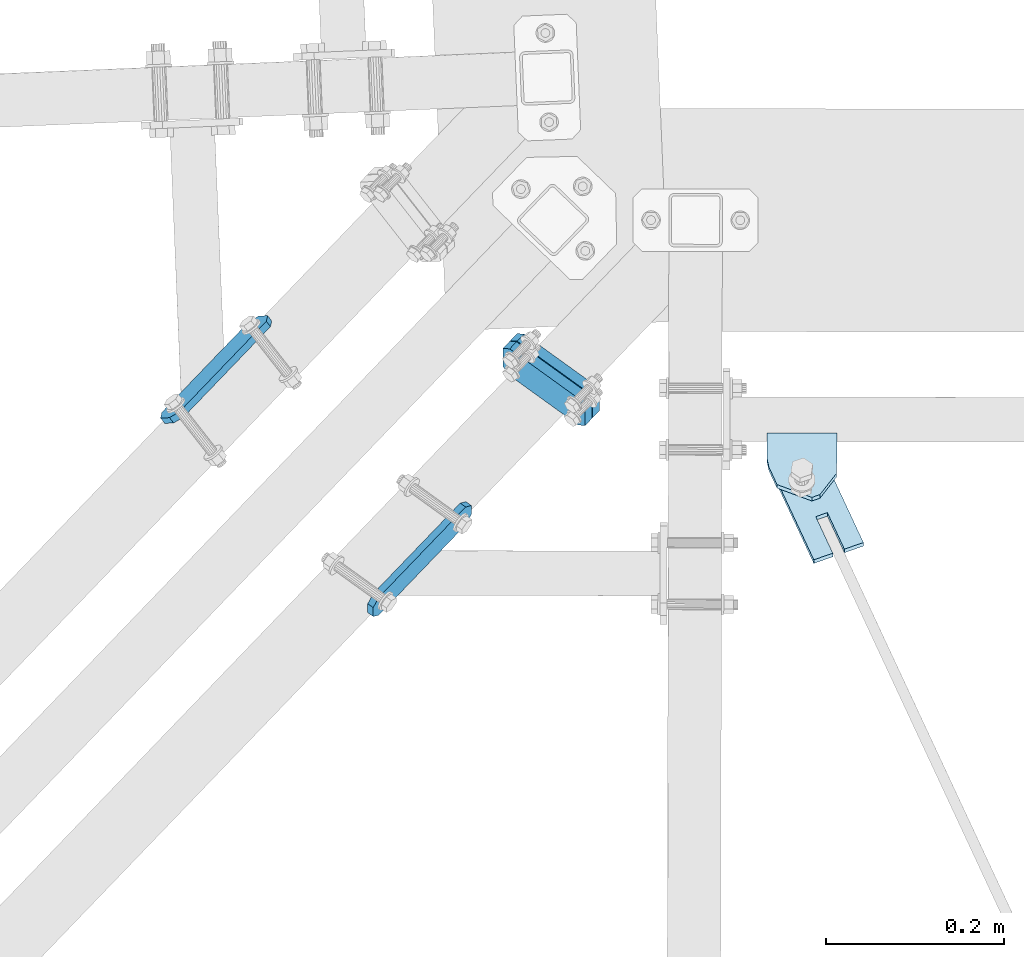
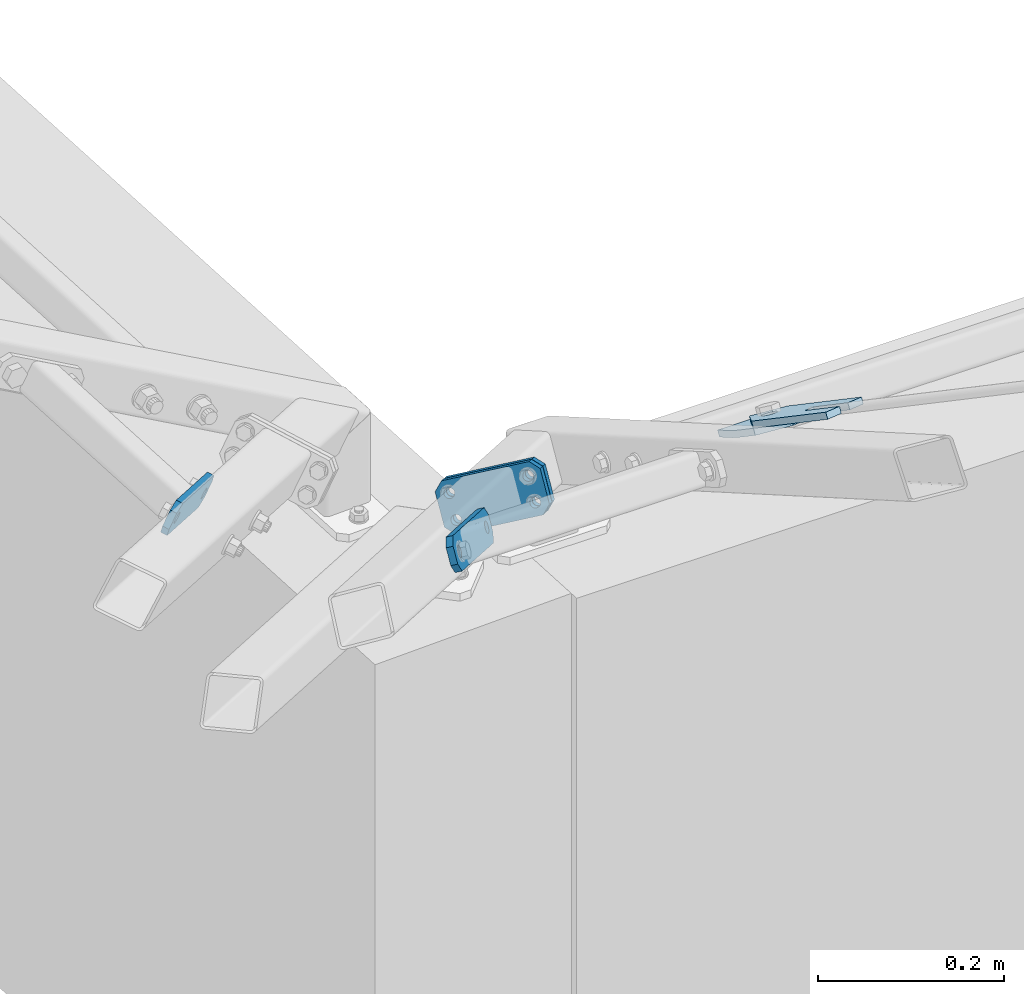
# One storey, part 29 of 288: 6 plates, 36 openings.
"""IFC2X3 building model written with IfcOpenShell, lengths in millimetres."""

from ifc_helpers import new_model, entity, si_unit, converted_unit, point, frame, frame_2d, origin, origin_with_axes, origin_2d_with_axis, place, context, project, spatial, polyline, circle_curve, line_curve, trimmed, segment, composite_curve, circle, outline, extrude, material, layer, layer_set, element, save


model = new_model("IFC2X3")

# Units and contexts
model_context = context("Model", 3, precision=1e-09, world=origin_with_axes())
ifc_project = project(units=[si_unit("LENGTHUNIT", "METRE", prefix="MILLI"), si_unit("AREAUNIT", "SQUARE_METRE"), si_unit("VOLUMEUNIT", "CUBIC_METRE"), converted_unit("PLANEANGLEUNIT", "DEGREE", entity("IfcPlaneAngleMeasure", 0.01745329), si_unit("PLANEANGLEUNIT", "RADIAN"), dimensions=[0, 0, 0, 0, 0, 0, 0])], contexts=[model_context])

# Site, building, storey
site_placement = place(None, origin_with_axes())
site = spatial("IfcSite", under=ifc_project, at=site_placement, Name="Remont ?wietlik?w nad MC w NCPP w Opolu", CompositionType="ELEMENT")
building_placement = place(site_placement, origin_with_axes())
building = spatial("IfcBuilding", under=site, at=building_placement, Name="Konstrukcja 1", CompositionType="ELEMENT")
storey_placement = place(building_placement, origin_with_axes())
storey = spatial("IfcBuildingStorey", under=building, at=storey_placement, Name="Default Storey", CompositionType="ELEMENT", Elevation=0.0)

# Plate, openings
ifc_material = material(Name="S235")
ifc_layer_1 = layer(ifc_material, 8.0)
ifc_layer_set_1 = layer_set([ifc_layer_1], Name="S235")
plate_1_placement = place(None, frame((1600.07287425, 1435.554153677, 343.827254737), z_axis=(0.768549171, -0.554075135, 0.319895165), x_axis=(0.639790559, 0.665222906, -0.384898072)))
plate_1 = element("IfcPlate", 1, at=plate_1_placement, inside=storey, material=ifc_layer_set_1, Name="-", ObjectType="-", context=model_context, shape_type="SweptSolid", body=[
    extrude(outline(polyline([(0.0, 0.0), (171.961487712, 0.0), (171.961487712, 40.000015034), (0.0, 40.000015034), (0.0, 0.0)])), origin_with_axes(), (0.0, 0.0, 1.0), 8.0),
])
opening_1_placement = place(plate_1_placement, frame((0.0, 0.0, -0.01), z_axis=(0.0, 0.0, 1.0), x_axis=(1.0, 0.0, 0.0)))
element("IfcOpeningElement", 2, at=opening_1_placement, cuts=plate_1, ObjectType="Opening", context=model_context, shape_type="SweptSolid", body=[
    extrude(outline(composite_curve([segment(trimmed(line_curve((171.961487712, 40.000015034), (-1.0, 0.0), 10.0), [point((171.961487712, 40.000015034))], [point((161.961487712, 40.000015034))], True, "CARTESIAN"), True, "CONTINUOUS"), segment(trimmed(circle_curve(frame_2d((161.961487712, 30.000015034), x_axis=(-1.0, 0.0)), 10.0), [point((161.961487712, 40.000015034))], [point((171.961487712, 30.000015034))], False, "CARTESIAN"), True, "CONTINUOUS"), segment(trimmed(line_curve((171.961487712, 30.000015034), (0.0, 1.0), 10.0), [point((171.961487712, 30.000015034))], [point((171.961487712, 40.000015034))], True, "CARTESIAN"), True, "CONTINUOUS")], self_intersect=False)), origin(), (0.0, 0.0, 1.0), 8.02),
])
opening_2_placement = place(plate_1_placement, frame((0.0, 0.0, -0.01), z_axis=(0.0, 0.0, 1.0), x_axis=(1.0, 0.0, 0.0)))
element("IfcOpeningElement", 3, at=opening_2_placement, cuts=plate_1, ObjectType="Opening", context=model_context, shape_type="SweptSolid", body=[
    extrude(outline(composite_curve([segment(trimmed(line_curve((171.961487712, 0.0), (0.0, 1.0), 10.0), [point((171.961487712, 0.0))], [point((171.961487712, 10.0))], True, "CARTESIAN"), True, "CONTINUOUS"), segment(trimmed(circle_curve(frame_2d((161.961487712, 10.0), x_axis=(-1.0, 0.0)), 10.0), [point((171.961487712, 10.0))], [point((161.961487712, 0.0))], False, "CARTESIAN"), True, "CONTINUOUS"), segment(trimmed(line_curve((161.961487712, 0.0), (1.0, 0.0), 10.0), [point((161.961487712, 0.0))], [point((171.961487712, 0.0))], True, "CARTESIAN"), True, "CONTINUOUS")], self_intersect=False)), origin(), (0.0, 0.0, 1.0), 8.02),
])
opening_3_placement = place(plate_1_placement, frame((0.0, 0.0, -0.01), z_axis=(0.0, 0.0, 1.0), x_axis=(1.0, 0.0, 0.0)))
element("IfcOpeningElement", 4, at=opening_3_placement, cuts=plate_1, ObjectType="Opening", context=model_context, shape_type="SweptSolid", body=[
    extrude(outline(composite_curve([segment(trimmed(line_curve((0.0, 0.0), (1.0, 0.0), 10.0), [point((0.0, 0.0))], [point((10.0, 0.0))], True, "CARTESIAN"), True, "CONTINUOUS"), segment(trimmed(circle_curve(frame_2d((10.0, 10.0), x_axis=(-1.0, 0.0)), 10.0), [point((10.0, 0.0))], [point((0.0, 10.0))], False, "CARTESIAN"), True, "CONTINUOUS"), segment(trimmed(line_curve((0.0, 10.0), (0.0, -1.0), 10.0), [point((0.0, 10.0))], [point((0.0, 0.0))], True, "CARTESIAN"), True, "CONTINUOUS")], self_intersect=False)), origin(), (0.0, 0.0, 1.0), 8.02),
])
opening_4_placement = place(plate_1_placement, frame((0.0, 0.0, -0.01), z_axis=(0.0, 0.0, 1.0), x_axis=(1.0, 0.0, 0.0)))
element("IfcOpeningElement", 5, at=opening_4_placement, cuts=plate_1, ObjectType="Opening", context=model_context, shape_type="SweptSolid", body=[
    extrude(outline(composite_curve([segment(trimmed(line_curve((0.0, 40.000015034), (0.0, -1.0), 10.0), [point((0.0, 40.000015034))], [point((0.0, 30.000015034))], True, "CARTESIAN"), True, "CONTINUOUS"), segment(trimmed(circle_curve(frame_2d((10.0, 30.000015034), x_axis=(-1.0, 0.0)), 10.0), [point((0.0, 30.000015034))], [point((10.0, 40.000015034))], False, "CARTESIAN"), True, "CONTINUOUS"), segment(trimmed(line_curve((10.0, 40.000015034), (-1.0, 0.0), 10.0), [point((10.0, 40.000015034))], [point((0.0, 40.000015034))], True, "CARTESIAN"), True, "CONTINUOUS")], self_intersect=False)), origin(), (0.0, 0.0, 1.0), 8.02),
])
opening_5_placement = place(plate_1_placement, frame((151.968676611, 20.000007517, -0.5), z_axis=(0.0, 0.0, 1.0), x_axis=(1.0, 0.0, 0.0)))
element("IfcOpeningElement", 6, at=opening_5_placement, cuts=plate_1, ObjectType="Opening", context=model_context, shape_type="SweptSolid", body=[
    extrude(circle(Radius=7.001, at=origin_2d_with_axis()), origin(), (0.0, 0.0, 1.0), 9.0),
])
opening_6_placement = place(plate_1_placement, frame((20.007188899, 20.000007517, -0.5), z_axis=(0.0, 0.0, 1.0), x_axis=(1.0, 0.0, 0.0)))
element("IfcOpeningElement", 7, at=opening_6_placement, cuts=plate_1, ObjectType="Opening", context=model_context, shape_type="SweptSolid", body=[
    extrude(circle(Radius=7.001, at=origin_2d_with_axis()), origin(), (0.0, 0.0, 1.0), 9.0),
])

plate_2_placement = place(None, frame((1467.292674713, 1747.030765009, 328.829036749), z_axis=(0.584245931, -0.746219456, -0.319081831), x_axis=(-0.639601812, -0.665374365, 0.384949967)))
plate_2 = element("IfcPlate", 8, at=plate_2_placement, inside=storey, material=ifc_layer_set_1, Name="-", ObjectType="-", context=model_context, shape_type="SweptSolid", body=[
    extrude(outline(polyline([(-39.999999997, 0.0), (131.953987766, 0.0), (131.953987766, 40.000140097), (-39.999999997, 40.000140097), (-39.999999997, 0.0)])), origin_with_axes(), (0.0, 0.0, 1.0), 8.0),
])
opening_7_placement = place(plate_2_placement, frame((0.0, 0.0, -0.01), z_axis=(0.0, 0.0, 1.0), x_axis=(1.0, 0.0, 0.0)))
element("IfcOpeningElement", 9, at=opening_7_placement, cuts=plate_2, ObjectType="Opening", context=model_context, shape_type="SweptSolid", body=[
    extrude(outline(composite_curve([segment(trimmed(line_curve((-39.999999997, 0.0), (1.0, 0.0), 10.0), [point((-39.999999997, 0.0))], [point((-29.999999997, 0.0))], True, "CARTESIAN"), True, "CONTINUOUS"), segment(trimmed(circle_curve(frame_2d((-29.999999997, 10.0), x_axis=(-1.0, 0.0)), 10.0), [point((-29.999999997, 0.0))], [point((-39.999999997, 10.0))], False, "CARTESIAN"), True, "CONTINUOUS"), segment(trimmed(line_curve((-39.999999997, 10.0), (0.0, -1.0), 10.0), [point((-39.999999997, 10.0))], [point((-39.999999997, 0.0))], True, "CARTESIAN"), True, "CONTINUOUS")], self_intersect=False)), origin(), (0.0, 0.0, 1.0), 8.02),
])
opening_8_placement = place(plate_2_placement, frame((-19.999798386, 20.000035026, 8.5), z_axis=(0.0, 0.0, -1.0), x_axis=(1.0, 0.0, 0.0)))
element("IfcOpeningElement", 10, at=opening_8_placement, cuts=plate_2, ObjectType="Opening", context=model_context, shape_type="SweptSolid", body=[
    extrude(circle(Radius=7.001, at=origin_2d_with_axis()), origin(), (0.0, 0.0, 1.0), 9.0),
])
opening_9_placement = place(plate_2_placement, frame((111.953987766, 20.000140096, 8.5), z_axis=(0.0, 0.0, -1.0), x_axis=(1.0, 0.0, 0.0)))
element("IfcOpeningElement", 11, at=opening_9_placement, cuts=plate_2, ObjectType="Opening", context=model_context, shape_type="SweptSolid", body=[
    extrude(circle(Radius=7.001, at=origin_2d_with_axis()), origin(), (0.0, 0.0, 1.0), 9.0),
])
opening_10_placement = place(plate_2_placement, frame((0.0, 0.0, -0.01), z_axis=(0.0, 0.0, 1.0), x_axis=(1.0, 0.0, 0.0)))
element("IfcOpeningElement", 12, at=opening_10_placement, cuts=plate_2, ObjectType="Opening", context=model_context, shape_type="SweptSolid", body=[
    extrude(outline(composite_curve([segment(trimmed(line_curve((-39.999999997, 40.000140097), (0.0, -1.0), 10.0), [point((-39.999999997, 40.000140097))], [point((-39.999999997, 30.000140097))], True, "CARTESIAN"), True, "CONTINUOUS"), segment(trimmed(circle_curve(frame_2d((-29.999999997, 30.000140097), x_axis=(-1.0, 0.0)), 10.0), [point((-39.999999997, 30.000140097))], [point((-29.999999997, 40.000140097))], False, "CARTESIAN"), True, "CONTINUOUS"), segment(trimmed(line_curve((-29.999999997, 40.000140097), (-1.0, 0.0), 10.0), [point((-29.999999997, 40.000140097))], [point((-39.999999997, 40.000140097))], True, "CARTESIAN"), True, "CONTINUOUS")], self_intersect=False)), origin(), (0.0, 0.0, 1.0), 8.02),
])
opening_11_placement = place(plate_2_placement, frame((0.0, 0.0, -0.01), z_axis=(0.0, 0.0, 1.0), x_axis=(1.0, 0.0, 0.0)))
element("IfcOpeningElement", 13, at=opening_11_placement, cuts=plate_2, ObjectType="Opening", context=model_context, shape_type="SweptSolid", body=[
    extrude(outline(composite_curve([segment(trimmed(line_curve((131.953987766, 40.000140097), (-1.0, 0.0), 10.0), [point((131.953987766, 40.000140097))], [point((121.953987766, 40.000140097))], True, "CARTESIAN"), True, "CONTINUOUS"), segment(trimmed(circle_curve(frame_2d((121.953987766, 30.000140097), x_axis=(-1.0, 0.0)), 10.0), [point((121.953987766, 40.000140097))], [point((131.953987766, 30.000140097))], False, "CARTESIAN"), True, "CONTINUOUS"), segment(trimmed(line_curve((131.953987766, 30.000140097), (0.0, 1.0), 10.0), [point((131.953987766, 30.000140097))], [point((131.953987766, 40.000140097))], True, "CARTESIAN"), True, "CONTINUOUS")], self_intersect=False)), origin(), (0.0, 0.0, 1.0), 8.02),
])
opening_12_placement = place(plate_2_placement, frame((0.0, 0.0, -0.01), z_axis=(0.0, 0.0, 1.0), x_axis=(1.0, 0.0, 0.0)))
element("IfcOpeningElement", 14, at=opening_12_placement, cuts=plate_2, ObjectType="Opening", context=model_context, shape_type="SweptSolid", body=[
    extrude(outline(composite_curve([segment(trimmed(line_curve((131.953987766, 0.0), (0.0, 1.0), 10.0), [point((131.953987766, 0.0))], [point((131.953987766, 10.0))], True, "CARTESIAN"), True, "CONTINUOUS"), segment(trimmed(circle_curve(frame_2d((121.953987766, 10.0), x_axis=(-1.0, 0.0)), 10.0), [point((131.953987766, 10.0))], [point((121.953987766, 0.0))], False, "CARTESIAN"), True, "CONTINUOUS"), segment(trimmed(line_curve((121.953987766, 0.0), (1.0, 0.0), 10.0), [point((121.953987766, 0.0))], [point((131.953987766, 0.0))], True, "CARTESIAN"), True, "CONTINUOUS")], self_intersect=False)), origin(), (0.0, 0.0, 1.0), 8.02),
])

plate_3_placement = place(None, frame((2100.062299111, 1495.688605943, 336.183359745), z_axis=(0.001127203, 0.499998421, 0.866025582), x_axis=(0.927238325, 0.323778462, -0.18813983)))
plate_3 = element("IfcPlate", 15, at=plate_3_placement, inside=storey, material=ifc_layer_set_1, Name="Tab_Plate#2", ObjectType="Tab_Plate#2", context=model_context, shape_type="SweptSolid", body=[
    extrude(outline(polyline([(0.0, 0.0), (60.0, 0.0), (60.0, 140.0), (0.0, 140.0), (0.0, 0.0)])), origin_with_axes(), (0.0, 0.0, 1.0), 8.0),
])
opening_13_placement = place(plate_3_placement, frame((0.0, 0.0, -0.01), z_axis=(0.0, 0.0, 1.0), x_axis=(1.0, 0.0, 0.0)))
element("IfcOpeningElement", 16, at=opening_13_placement, cuts=plate_3, ObjectType="Opening", context=model_context, shape_type="SweptSolid", body=[
    extrude(outline(composite_curve([segment(trimmed(line_curve((60.0, 140.0), (-1.0, 0.0), 30.0), [point((60.0, 140.0))], [point((30.0, 140.0))], True, "CARTESIAN"), True, "CONTINUOUS"), segment(trimmed(circle_curve(frame_2d((30.0, 110.0), x_axis=(-1.0, 0.0)), 30.0), [point((30.0, 140.0))], [point((60.0, 110.0))], False, "CARTESIAN"), True, "CONTINUOUS"), segment(trimmed(line_curve((60.0, 110.0), (0.0, 1.0), 30.0), [point((60.0, 110.0))], [point((60.0, 140.0))], True, "CARTESIAN"), True, "CONTINUOUS")], self_intersect=False)), origin(), (0.0, 0.0, 1.0), 8.02),
])
opening_14_placement = place(plate_3_placement, frame((0.0, 0.0, -0.01), z_axis=(0.0, 0.0, 1.0), x_axis=(1.0, 0.0, 0.0)))
element("IfcOpeningElement", 17, at=opening_14_placement, cuts=plate_3, ObjectType="Opening", context=model_context, shape_type="SweptSolid", body=[
    extrude(outline(composite_curve([segment(trimmed(line_curve((0.0, 140.0), (0.0, -1.0), 30.0), [point((0.0, 140.0))], [point((0.0, 110.0))], True, "CARTESIAN"), True, "CONTINUOUS"), segment(trimmed(circle_curve(frame_2d((30.0, 110.0), x_axis=(-1.0, 0.0)), 30.0), [point((0.0, 110.0))], [point((30.0, 140.0))], False, "CARTESIAN"), True, "CONTINUOUS"), segment(trimmed(line_curve((30.0, 140.0), (-1.0, 0.0), 30.0), [point((30.0, 140.0))], [point((0.0, 140.0))], True, "CARTESIAN"), True, "CONTINUOUS")], self_intersect=False)), origin(), (0.0, 0.0, 1.0), 8.02),
])
opening_15_placement = place(plate_3_placement, frame((0.0, 0.0, 8.1), z_axis=(0.0, 0.0, -1.0), x_axis=(0.92650604, -0.376279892, 0.0)))
element("IfcOpeningElement", 18, at=opening_15_placement, cuts=plate_3, ObjectType="Opening", context=model_context, shape_type="SweptSolid", body=[
    extrude(outline(polyline([(2.118061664, -55.906795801), (15.090999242, -61.175466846), (34.282026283, -13.92180577), (21.309088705, -8.653134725), (2.118061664, -55.906795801)])), origin(), (0.0, 0.0, 1.0), 8.2),
])
opening_16_placement = place(plate_3_placement, frame((30.0, 119.001, -0.5), z_axis=(0.0, 0.0, -1.0), x_axis=(-1.0, 0.0, 0.0)))
element("IfcOpeningElement", 19, at=opening_16_placement, cuts=plate_3, ObjectType="Opening", context=model_context, shape_type="SweptSolid", body=[
    extrude(circle(Radius=9.001, at=frame_2d((0.0, -9.001), x_axis=(1.0, 0.0))), origin(), (0.0, 0.0, -1.0), 9.0),
])

plate_4_placement = place(None, frame((2125.738994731, 1579.373248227, 287.834751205), z_axis=(-0.001127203, -0.499998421, -0.866025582), x_axis=(-0.927238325, -0.323778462, 0.18813983)))
plate_4 = element("IfcPlate", 20, at=plate_4_placement, inside=storey, material=ifc_layer_set_1, Name="Gusset#2", ObjectType="Gusset#2", context=model_context, shape_type="SweptSolid", body=[
    extrude(outline(polyline([(0.0, 0.0), (60.0, 0.0), (60.0, 60.0), (45.293350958, 96.211175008), (-27.128999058, 66.797876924), (0.0, 0.0)])), origin_with_axes(), (0.0, 0.0, 1.0), 8.0),
])
opening_17_placement = place(plate_4_placement, frame((30.0, 39.001, 8.5), z_axis=(0.0, 0.0, 1.0), x_axis=(1.0, 0.0, 0.0)))
element("IfcOpeningElement", 21, at=opening_17_placement, cuts=plate_4, ObjectType="Opening", context=model_context, shape_type="SweptSolid", body=[
    extrude(circle(Radius=9.001, at=frame_2d((0.0, -9.001), x_axis=(1.0, 0.0))), origin(), (0.0, 0.0, -1.0), 9.0),
])
opening_18_placement = place(plate_4_placement, frame((0.0, 0.0, -0.01), z_axis=(0.0, 0.0, 1.0), x_axis=(1.0, 0.0, 0.0)))
element("IfcOpeningElement", 22, at=opening_18_placement, cuts=plate_4, ObjectType="Opening", context=model_context, shape_type="SweptSolid", body=[
    extrude(outline(composite_curve([segment(trimmed(line_curve((60.0, 0.0), (0.0, 1.0), 30.0), [point((60.0, 0.0))], [point((60.0, 30.0))], True, "CARTESIAN"), True, "CONTINUOUS"), segment(trimmed(circle_curve(frame_2d((30.0, 30.0), x_axis=(-1.0, 0.0)), 30.0), [point((60.0, 30.0))], [point((30.0, 0.0))], False, "CARTESIAN"), True, "CONTINUOUS"), segment(trimmed(line_curve((30.0, 0.0), (1.0, 0.0), 30.0), [point((30.0, 0.0))], [point((60.0, 0.0))], True, "CARTESIAN"), True, "CONTINUOUS")], self_intersect=False)), origin(), (0.0, 0.0, 1.0), 8.02),
])
opening_19_placement = place(plate_4_placement, frame((0.0, 0.0, -0.01), z_axis=(0.0, 0.0, 1.0), x_axis=(1.0, 0.0, 0.0)))
element("IfcOpeningElement", 23, at=opening_19_placement, cuts=plate_4, ObjectType="Opening", context=model_context, shape_type="SweptSolid", body=[
    extrude(outline(composite_curve([segment(trimmed(line_curve((0.0, 0.0), (1.0, 0.0), 20.195732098), [point((0.0, 0.0))], [point((20.195732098, 0.0))], True, "CARTESIAN"), True, "CONTINUOUS"), segment(trimmed(circle_curve(frame_2d((20.195732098, 30.0), x_axis=(-1.0, 0.0)), 30.0), [point((20.195732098, 0.0))], [point((-7.599373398, 18.711416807))], False, "CARTESIAN"), True, "CONTINUOUS"), segment(trimmed(line_curve((-7.599373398, 18.711416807), (0.376286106, -0.926503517), 20.195732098), [point((-7.599373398, 18.711416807))], [point((0.0, 0.0))], True, "CARTESIAN"), True, "CONTINUOUS")], self_intersect=False)), origin(), (0.0, 0.0, 1.0), 8.02),
])
opening_20_placement = place(plate_4_placement, frame((0.0, 0.0, -0.01), z_axis=(0.0, 0.0, 1.0), x_axis=(1.0, 0.0, 0.0)))
element("IfcOpeningElement", 24, at=opening_20_placement, cuts=plate_4, ObjectType="Opening", context=model_context, shape_type="SweptSolid", body=[
    extrude(outline(composite_curve([segment(trimmed(line_curve((60.0, 60.0), (-0.376286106, 0.926503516), 5.859622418), [point((60.0, 60.0))], [point((57.795105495, 65.428960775))], True, "CARTESIAN"), True, "CONTINUOUS"), segment(trimmed(circle_curve(frame_2d((30.0, 54.140377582), x_axis=(-1.0, 0.0)), 30.0), [point((57.795105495, 65.428960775))], [point((60.0, 54.140377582))], False, "CARTESIAN"), True, "CONTINUOUS"), segment(trimmed(line_curve((60.0, 54.140377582), (0.0, 1.0), 5.859622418), [point((60.0, 54.140377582))], [point((60.0, 60.0))], True, "CARTESIAN"), True, "CONTINUOUS")], self_intersect=False)), origin(), (0.0, 0.0, 1.0), 8.02),
])

ifc_layer_2 = layer(ifc_material, 12.0)
ifc_layer_set_2 = layer_set([ifc_layer_2], Name="S235")
plate_5_placement = place(None, frame((1852.095101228, 1683.869963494, 259.090563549), z_axis=(0.639790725, 0.665583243, -0.384274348), x_axis=(0.0, -0.499999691, -0.866025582)))
plate_5 = element("IfcPlate", 25, at=plate_5_placement, inside=storey, material=ifc_layer_set_2, Name="Endplate#1", ObjectType="Endplate#1", context=model_context, shape_type="SweptSolid", body=[
    extrude(outline(polyline([(0.0, 0.0), (60.0, 0.0), (60.0, 120.0), (0.0, 120.0), (0.0, 0.0)])), origin_with_axes(), (0.0, 0.0, 1.0), 12.0),
])
opening_21_placement = place(plate_5_placement, frame((0.0, 0.0, -0.01), z_axis=(0.0, 0.0, 1.0), x_axis=(1.0, 0.0, 0.0)))
element("IfcOpeningElement", 26, at=opening_21_placement, cuts=plate_5, ObjectType="Opening", context=model_context, shape_type="SweptSolid", body=[
    extrude(outline(composite_curve([segment(trimmed(line_curve((0.0, 0.0), (1.0, 0.0), 10.0), [point((0.0, 0.0))], [point((10.0, 0.0))], True, "CARTESIAN"), True, "CONTINUOUS"), segment(trimmed(circle_curve(frame_2d((10.0, 10.0), x_axis=(-1.0, 0.0)), 10.0), [point((10.0, 0.0))], [point((0.0, 10.0))], False, "CARTESIAN"), True, "CONTINUOUS"), segment(trimmed(line_curve((0.0, 10.0), (0.0, -1.0), 10.0), [point((0.0, 10.0))], [point((0.0, 0.0))], True, "CARTESIAN"), True, "CONTINUOUS")], self_intersect=False)), origin(), (0.0, 0.0, 1.0), 12.02),
])
opening_22_placement = place(plate_5_placement, frame((0.0, 0.0, -0.01), z_axis=(0.0, 0.0, 1.0), x_axis=(1.0, 0.0, 0.0)))
element("IfcOpeningElement", 27, at=opening_22_placement, cuts=plate_5, ObjectType="Opening", context=model_context, shape_type="SweptSolid", body=[
    extrude(outline(composite_curve([segment(trimmed(line_curve((60.0, 0.0), (0.0, 1.0), 10.0), [point((60.0, 0.0))], [point((60.0, 10.0))], True, "CARTESIAN"), True, "CONTINUOUS"), segment(trimmed(circle_curve(frame_2d((50.0, 10.0), x_axis=(-1.0, 0.0)), 10.0), [point((60.0, 10.0))], [point((50.0, 0.0))], False, "CARTESIAN"), True, "CONTINUOUS"), segment(trimmed(line_curve((50.0, 0.0), (1.0, 0.0), 10.0), [point((50.0, 0.0))], [point((60.0, 0.0))], True, "CARTESIAN"), True, "CONTINUOUS")], self_intersect=False)), origin(), (0.0, 0.0, 1.0), 12.02),
])
opening_23_placement = place(plate_5_placement, frame((0.0, 0.0, -0.01), z_axis=(0.0, 0.0, 1.0), x_axis=(1.0, 0.0, 0.0)))
element("IfcOpeningElement", 28, at=opening_23_placement, cuts=plate_5, ObjectType="Opening", context=model_context, shape_type="SweptSolid", body=[
    extrude(outline(composite_curve([segment(trimmed(line_curve((60.0, 120.0), (-1.0, 0.0), 10.0), [point((60.0, 120.0))], [point((50.0, 120.0))], True, "CARTESIAN"), True, "CONTINUOUS"), segment(trimmed(circle_curve(frame_2d((50.0, 110.0), x_axis=(-1.0, 0.0)), 10.0), [point((50.0, 120.0))], [point((60.0, 110.0))], False, "CARTESIAN"), True, "CONTINUOUS"), segment(trimmed(line_curve((60.0, 110.0), (0.0, 1.0), 10.0), [point((60.0, 110.0))], [point((60.0, 120.0))], True, "CARTESIAN"), True, "CONTINUOUS")], self_intersect=False)), origin(), (0.0, 0.0, 1.0), 12.02),
])
opening_24_placement = place(plate_5_placement, frame((0.0, 0.0, -0.01), z_axis=(0.0, 0.0, 1.0), x_axis=(1.0, 0.0, 0.0)))
element("IfcOpeningElement", 29, at=opening_24_placement, cuts=plate_5, ObjectType="Opening", context=model_context, shape_type="SweptSolid", body=[
    extrude(outline(composite_curve([segment(trimmed(line_curve((0.0, 120.0), (0.0, -1.0), 10.0), [point((0.0, 120.0))], [point((0.0, 110.0))], True, "CARTESIAN"), True, "CONTINUOUS"), segment(trimmed(circle_curve(frame_2d((10.0, 110.0), x_axis=(-1.0, 0.0)), 10.0), [point((0.0, 110.0))], [point((10.0, 120.0))], False, "CARTESIAN"), True, "CONTINUOUS"), segment(trimmed(line_curve((10.0, 120.0), (-1.0, 0.0), 10.0), [point((10.0, 120.0))], [point((0.0, 120.0))], True, "CARTESIAN"), True, "CONTINUOUS")], self_intersect=False)), origin(), (0.0, 0.0, 1.0), 12.02),
])
opening_25_placement = place(plate_5_placement, frame((15.0, 60.0, 12.5), z_axis=(0.0, 0.0, -1.0), x_axis=(1.0, 0.0, 0.0)))
element("IfcOpeningElement", 30, at=opening_25_placement, cuts=plate_5, ObjectType="Opening", context=model_context, shape_type="SweptSolid", body=[
    extrude(circle(Radius=6.001, at=frame_2d((0.0, 45.0), x_axis=(1.0, 0.0))), origin(), (0.0, 0.0, 1.0), 13.0),
])
opening_26_placement = place(plate_5_placement, frame((15.0, 60.0, 12.5), z_axis=(0.0, 0.0, -1.0), x_axis=(1.0, 0.0, 0.0)))
element("IfcOpeningElement", 31, at=opening_26_placement, cuts=plate_5, ObjectType="Opening", context=model_context, shape_type="SweptSolid", body=[
    extrude(circle(Radius=6.001, at=frame_2d((0.0, -45.0), x_axis=(1.0, 0.0))), origin(), (0.0, 0.0, 1.0), 13.0),
])
opening_27_placement = place(plate_5_placement, frame((45.0, 60.0, 12.5), z_axis=(0.0, 0.0, -1.0), x_axis=(1.0, 0.0, 0.0)))
element("IfcOpeningElement", 32, at=opening_27_placement, cuts=plate_5, ObjectType="Opening", context=model_context, shape_type="SweptSolid", body=[
    extrude(circle(Radius=6.001, at=frame_2d((0.0, 45.0), x_axis=(1.0, 0.0))), origin(), (0.0, 0.0, 1.0), 13.0),
])
opening_28_placement = place(plate_5_placement, frame((45.0, 60.0, 12.5), z_axis=(0.0, 0.0, -1.0), x_axis=(1.0, 0.0, 0.0)))
element("IfcOpeningElement", 33, at=opening_28_placement, cuts=plate_5, ObjectType="Opening", context=model_context, shape_type="SweptSolid", body=[
    extrude(circle(Radius=6.001, at=frame_2d((0.0, -45.0), x_axis=(1.0, 0.0))), origin(), (0.0, 0.0, 1.0), 13.0),
])

plate_6_placement = place(None, frame((1843.777821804, 1675.217381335, 264.086130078), z_axis=(0.639790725, 0.665583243, -0.384274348), x_axis=(0.0, -0.499999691, -0.866025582)))
plate_6 = element("IfcPlate", 34, at=plate_6_placement, inside=storey, material=ifc_layer_set_2, Name="Endplate#2", ObjectType="Endplate#2", context=model_context, shape_type="SweptSolid", body=[
    extrude(outline(polyline([(0.0, 0.0), (60.0, 0.0), (60.0, 120.0), (0.0, 120.0), (0.0, 0.0)])), origin_with_axes(), (0.0, 0.0, 1.0), 12.0),
])
opening_29_placement = place(plate_6_placement, frame((0.0, 0.0, -0.01), z_axis=(0.0, 0.0, 1.0), x_axis=(1.0, 0.0, 0.0)))
element("IfcOpeningElement", 35, at=opening_29_placement, cuts=plate_6, ObjectType="Opening", context=model_context, shape_type="SweptSolid", body=[
    extrude(outline(composite_curve([segment(trimmed(line_curve((0.0, 0.0), (1.0, 0.0), 10.0), [point((0.0, 0.0))], [point((10.0, 0.0))], True, "CARTESIAN"), True, "CONTINUOUS"), segment(trimmed(circle_curve(frame_2d((10.0, 10.0), x_axis=(-1.0, 0.0)), 10.0), [point((10.0, 0.0))], [point((0.0, 10.0))], False, "CARTESIAN"), True, "CONTINUOUS"), segment(trimmed(line_curve((0.0, 10.0), (0.0, -1.0), 10.0), [point((0.0, 10.0))], [point((0.0, 0.0))], True, "CARTESIAN"), True, "CONTINUOUS")], self_intersect=False)), origin(), (0.0, 0.0, 1.0), 12.02),
])
opening_30_placement = place(plate_6_placement, frame((0.0, 0.0, -0.01), z_axis=(0.0, 0.0, 1.0), x_axis=(1.0, 0.0, 0.0)))
element("IfcOpeningElement", 36, at=opening_30_placement, cuts=plate_6, ObjectType="Opening", context=model_context, shape_type="SweptSolid", body=[
    extrude(outline(composite_curve([segment(trimmed(line_curve((60.0, 0.0), (0.0, 1.0), 10.0), [point((60.0, 0.0))], [point((60.0, 10.0))], True, "CARTESIAN"), True, "CONTINUOUS"), segment(trimmed(circle_curve(frame_2d((50.0, 10.0), x_axis=(-1.0, 0.0)), 10.0), [point((60.0, 10.0))], [point((50.0, 0.0))], False, "CARTESIAN"), True, "CONTINUOUS"), segment(trimmed(line_curve((50.0, 0.0), (1.0, 0.0), 10.0), [point((50.0, 0.0))], [point((60.0, 0.0))], True, "CARTESIAN"), True, "CONTINUOUS")], self_intersect=False)), origin(), (0.0, 0.0, 1.0), 12.02),
])
opening_31_placement = place(plate_6_placement, frame((0.0, 0.0, -0.01), z_axis=(0.0, 0.0, 1.0), x_axis=(1.0, 0.0, 0.0)))
element("IfcOpeningElement", 37, at=opening_31_placement, cuts=plate_6, ObjectType="Opening", context=model_context, shape_type="SweptSolid", body=[
    extrude(outline(composite_curve([segment(trimmed(line_curve((0.0, 120.0), (0.0, -1.0), 10.0), [point((0.0, 120.0))], [point((0.0, 110.0))], True, "CARTESIAN"), True, "CONTINUOUS"), segment(trimmed(circle_curve(frame_2d((10.0, 110.0), x_axis=(-1.0, 0.0)), 10.0), [point((0.0, 110.0))], [point((10.0, 120.0))], False, "CARTESIAN"), True, "CONTINUOUS"), segment(trimmed(line_curve((10.0, 120.0), (-1.0, 0.0), 10.0), [point((10.0, 120.0))], [point((0.0, 120.0))], True, "CARTESIAN"), True, "CONTINUOUS")], self_intersect=False)), origin(), (0.0, 0.0, 1.0), 12.02),
])
opening_32_placement = place(plate_6_placement, frame((0.0, 0.0, -0.01), z_axis=(0.0, 0.0, 1.0), x_axis=(1.0, 0.0, 0.0)))
element("IfcOpeningElement", 38, at=opening_32_placement, cuts=plate_6, ObjectType="Opening", context=model_context, shape_type="SweptSolid", body=[
    extrude(outline(composite_curve([segment(trimmed(line_curve((60.0, 120.0), (-1.0, 0.0), 10.0), [point((60.0, 120.0))], [point((50.0, 120.0))], True, "CARTESIAN"), True, "CONTINUOUS"), segment(trimmed(circle_curve(frame_2d((50.0, 110.0), x_axis=(-1.0, 0.0)), 10.0), [point((50.0, 120.0))], [point((60.0, 110.0))], False, "CARTESIAN"), True, "CONTINUOUS"), segment(trimmed(line_curve((60.0, 110.0), (0.0, 1.0), 10.0), [point((60.0, 110.0))], [point((60.0, 120.0))], True, "CARTESIAN"), True, "CONTINUOUS")], self_intersect=False)), origin(), (0.0, 0.0, 1.0), 12.02),
])
opening_33_placement = place(plate_6_placement, frame((45.0, 60.0, 12.5), z_axis=(0.0, 0.0, -1.0), x_axis=(1.0, 0.0, 0.0)))
element("IfcOpeningElement", 39, at=opening_33_placement, cuts=plate_6, ObjectType="Opening", context=model_context, shape_type="SweptSolid", body=[
    extrude(circle(Radius=6.001, at=frame_2d((0.0, 45.0), x_axis=(1.0, 0.0))), origin(), (0.0, 0.0, 1.0), 13.0),
])
opening_34_placement = place(plate_6_placement, frame((45.0, 60.0, 12.5), z_axis=(0.0, 0.0, -1.0), x_axis=(1.0, 0.0, 0.0)))
element("IfcOpeningElement", 40, at=opening_34_placement, cuts=plate_6, ObjectType="Opening", context=model_context, shape_type="SweptSolid", body=[
    extrude(circle(Radius=6.001, at=frame_2d((0.0, -45.0), x_axis=(1.0, 0.0))), origin(), (0.0, 0.0, 1.0), 13.0),
])
opening_35_placement = place(plate_6_placement, frame((15.0, 60.0, 12.5), z_axis=(0.0, 0.0, -1.0), x_axis=(1.0, 0.0, 0.0)))
element("IfcOpeningElement", 41, at=opening_35_placement, cuts=plate_6, ObjectType="Opening", context=model_context, shape_type="SweptSolid", body=[
    extrude(circle(Radius=6.001, at=frame_2d((0.0, 45.0), x_axis=(1.0, 0.0))), origin(), (0.0, 0.0, 1.0), 13.0),
])
opening_36_placement = place(plate_6_placement, frame((15.0, 60.0, 12.5), z_axis=(0.0, 0.0, -1.0), x_axis=(1.0, 0.0, 0.0)))
element("IfcOpeningElement", 42, at=opening_36_placement, cuts=plate_6, ObjectType="Opening", context=model_context, shape_type="SweptSolid", body=[
    extrude(circle(Radius=6.001, at=frame_2d((0.0, -45.0), x_axis=(1.0, 0.0))), origin(), (0.0, 0.0, 1.0), 13.0),
])

save(model, "model.ifc")
